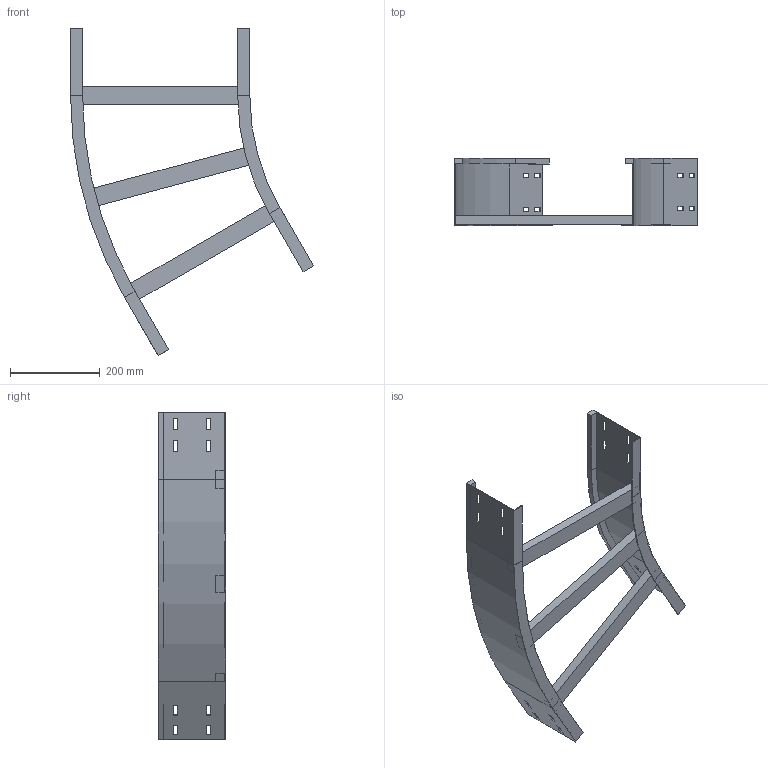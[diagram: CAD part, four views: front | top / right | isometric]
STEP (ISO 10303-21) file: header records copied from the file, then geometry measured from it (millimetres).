
FILE_DESCRIPTION (( 'STEP AP214' ), '1' );
FILE_NAME ('12J5F400.step', '2025-02-21T16:23:38', ( '' ), ( '' ), 'SwSTEP 2.0', 'SolidWorks 2023', '' );
FILE_SCHEMA (( 'AUTOMOTIVE_DESIGN' ));
Length unit declared in the file: millimetre
Products named in the file (4): LONGH.ESTERNO 30°_H150_R500+400; LONGH.INTERNO 30°_H150_R500; TRAVERSINO_400; 12J5F400
Assembly tree (5 placements, depth 2):
  12J5F400
    LONGH.INTERNO 30°_H150_R500
    LONGH.ESTERNO 30°_H150_R500+400
    TRAVERSINO_400  x3
Bounding box: 541.99 x 150 x 729.9 mm (x, y, z)
Volume: 1677586.8 mm3; surface area: 660304.8 mm2
Topology: 5 solids, 5 shells, 134 faces, 340 edges, 216 vertices
Faces by surface type: plane 126, cylinder 8
Entity records: 3821 total; most frequent: CARTESIAN_POINT 646, ORIENTED_EDGE 632, DIRECTION 592, EDGE_CURVE 316, LINE 300, VECTOR 300, VERTEX_POINT 200, EDGE_LOOP 154
